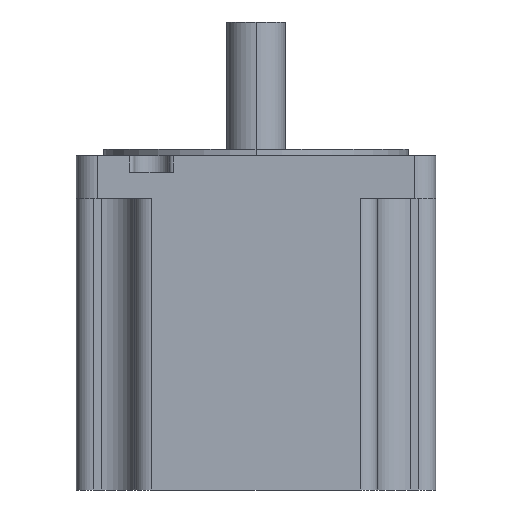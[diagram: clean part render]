
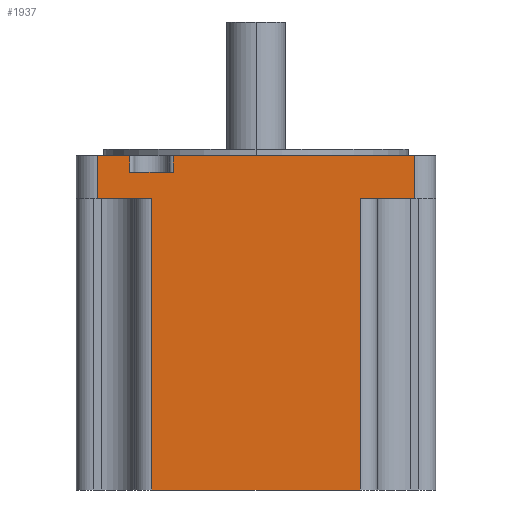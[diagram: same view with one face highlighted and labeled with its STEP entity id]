
A CAD part, left-side view. The second image highlights one B-rep face of the part: STEP entity #1937.
In plain terms, the highlighted planar face has unit normal (-1, 0, 0).
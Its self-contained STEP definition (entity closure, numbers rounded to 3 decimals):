
#251=DIRECTION('',(0.,0.,-1.));
#252=VECTOR('',#251,69.7);
#253=CARTESIAN_POINT('',(0.,68.,49.7));
#254=LINE('',#253,#252);
#255=DIRECTION('',(0.,0.,-1.));
#256=VECTOR('',#255,69.7);
#257=CARTESIAN_POINT('',(0.,18.,49.7));
#258=LINE('',#257,#256);
#259=DIRECTION('',(0.,-1.,0.));
#260=VECTOR('',#259,7.75);
#261=CARTESIAN_POINT('',(0.,81.,60.));
#262=LINE('',#261,#260);
#263=DIRECTION('',(0.,-1.,0.));
#264=VECTOR('',#263,57.75);
#265=CARTESIAN_POINT('',(0.,62.75,60.));
#266=LINE('',#265,#264);
#358=DIRECTION('',(0.,1.,0.));
#359=VECTOR('',#358,50.);
#360=CARTESIAN_POINT('',(0.,18.,-20.));
#361=LINE('',#360,#359);
#516=DIRECTION('',(0.,-1.,0.));
#517=VECTOR('',#516,13.);
#518=CARTESIAN_POINT('',(0.,18.,49.7));
#519=LINE('',#518,#517);
#539=DIRECTION('',(0.,0.,1.));
#540=VECTOR('',#539,10.3);
#541=CARTESIAN_POINT('',(0.,5.,49.7));
#542=LINE('',#541,#540);
#640=DIRECTION('',(0.,-1.,0.));
#641=VECTOR('',#640,13.);
#642=CARTESIAN_POINT('',(0.,81.,49.7));
#643=LINE('',#642,#641);
#682=DIRECTION('',(0.,0.,-1.));
#683=VECTOR('',#682,10.3);
#684=CARTESIAN_POINT('',(0.,81.,60.));
#685=LINE('',#684,#683);
#698=DIRECTION('',(0.,0.,1.));
#699=VECTOR('',#698,4.);
#700=CARTESIAN_POINT('',(0.,73.25,56.));
#701=LINE('',#700,#699);
#706=DIRECTION('',(0.,1.,0.));
#707=VECTOR('',#706,10.5);
#708=CARTESIAN_POINT('',(0.,62.75,56.));
#709=LINE('',#708,#707);
#756=DIRECTION('',(0.,0.,-1.));
#757=VECTOR('',#756,4.);
#758=CARTESIAN_POINT('',(0.,62.75,60.));
#759=LINE('',#758,#757);
#1316=CARTESIAN_POINT('',(0.,18.,49.7));
#1317=VERTEX_POINT('',#1316);
#1318=CARTESIAN_POINT('',(0.,81.,49.7));
#1319=CARTESIAN_POINT('',(0.,68.,49.7));
#1320=VERTEX_POINT('',#1318);
#1321=VERTEX_POINT('',#1319);
#1322=CARTESIAN_POINT('',(0.,81.,60.));
#1323=VERTEX_POINT('',#1322);
#1324=CARTESIAN_POINT('',(0.,73.25,60.));
#1325=VERTEX_POINT('',#1324);
#1326=CARTESIAN_POINT('',(0.,73.25,56.));
#1327=VERTEX_POINT('',#1326);
#1328=CARTESIAN_POINT('',(0.,62.75,56.));
#1329=VERTEX_POINT('',#1328);
#1330=CARTESIAN_POINT('',(0.,62.75,60.));
#1331=VERTEX_POINT('',#1330);
#1332=CARTESIAN_POINT('',(0.,5.,60.));
#1333=VERTEX_POINT('',#1332);
#1334=CARTESIAN_POINT('',(0.,5.,49.7));
#1335=VERTEX_POINT('',#1334);
#1563=CARTESIAN_POINT('',(0.,18.,-20.));
#1564=VERTEX_POINT('',#1563);
#1565=CARTESIAN_POINT('',(0.,68.,-20.));
#1566=VERTEX_POINT('',#1565);
#1909=CARTESIAN_POINT('',(0.,86.,60.));
#1910=DIRECTION('',(1.,0.,0.));
#1911=DIRECTION('',(0.,1.,0.));
#1912=AXIS2_PLACEMENT_3D('',#1909,#1910,#1911);
#1913=PLANE('',#1912);
#1915=ORIENTED_EDGE('',*,*,#1914,.T.);
#1917=ORIENTED_EDGE('',*,*,#1916,.T.);
#1918=ORIENTED_EDGE('',*,*,#1899,.F.);
#1920=ORIENTED_EDGE('',*,*,#1919,.F.);
#1922=ORIENTED_EDGE('',*,*,#1921,.F.);
#1923=ORIENTED_EDGE('',*,*,#1632,.T.);
#1925=ORIENTED_EDGE('',*,*,#1924,.F.);
#1927=ORIENTED_EDGE('',*,*,#1926,.F.);
#1929=ORIENTED_EDGE('',*,*,#1928,.F.);
#1930=ORIENTED_EDGE('',*,*,#1618,.T.);
#1932=ORIENTED_EDGE('',*,*,#1931,.F.);
#1934=ORIENTED_EDGE('',*,*,#1933,.F.);
#1935=EDGE_LOOP('',(#1915,#1917,#1918,#1920,#1922,#1923,#1925,#1927,#1929,#1930,
#1932,#1934));
#1936=FACE_OUTER_BOUND('',#1935,.F.);
#1937=ADVANCED_FACE('',(#1936),#1913,.F.);
#1618=EDGE_CURVE('',#1331,#1333,#266,.T.);
#1632=EDGE_CURVE('',#1323,#1325,#262,.T.);
#1899=EDGE_CURVE('',#1321,#1566,#254,.T.);
#1914=EDGE_CURVE('',#1317,#1564,#258,.T.);
#1916=EDGE_CURVE('',#1564,#1566,#361,.T.);
#1919=EDGE_CURVE('',#1320,#1321,#643,.T.);
#1921=EDGE_CURVE('',#1323,#1320,#685,.T.);
#1924=EDGE_CURVE('',#1327,#1325,#701,.T.);
#1926=EDGE_CURVE('',#1329,#1327,#709,.T.);
#1928=EDGE_CURVE('',#1331,#1329,#759,.T.);
#1931=EDGE_CURVE('',#1335,#1333,#542,.T.);
#1933=EDGE_CURVE('',#1317,#1335,#519,.T.);
